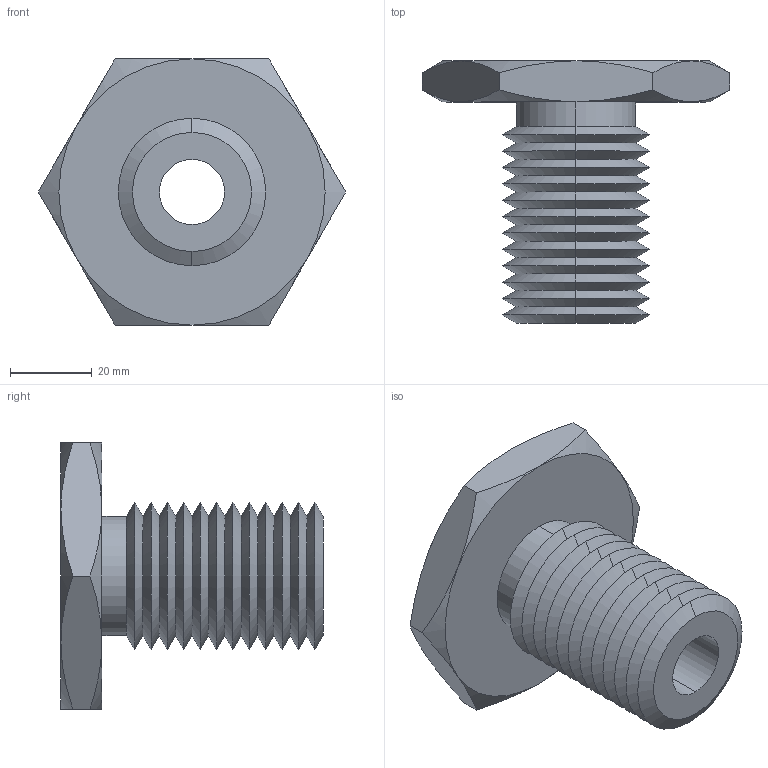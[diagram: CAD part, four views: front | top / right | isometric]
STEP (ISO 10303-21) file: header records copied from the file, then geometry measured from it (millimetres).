
FILE_DESCRIPTION (( 'STEP AP203' ), '1' );
FILE_NAME ('63302.W0036_0,62 UNC-11.step', '2013-12-08T11:11:34', ( 'User' ), ( '' ), 'SwSTEP 2.0', 'SolidWorks 2009', '' );
FILE_SCHEMA (( 'CONFIG_CONTROL_DESIGN' ));
Length unit declared in the file: millimetre
Products named in the file (1): 63302.W0036_0,62 UNC-11
Bounding box: 75.06 x 64 x 65 mm (x, y, z)
Volume: 67212.7 mm3; surface area: 22323.4 mm2
Topology: 1 solids, 1 shells, 75 faces, 154 edges, 82 vertices
Faces by surface type: cone 62, plane 9, cylinder 4
Entity records: 2139 total; most frequent: CARTESIAN_POINT 496, DIRECTION 352, ORIENTED_EDGE 308, EDGE_CURVE 154, AXIS2_PLACEMENT_3D 146, VERTEX_POINT 82, EDGE_LOOP 78, ADVANCED_FACE 75
